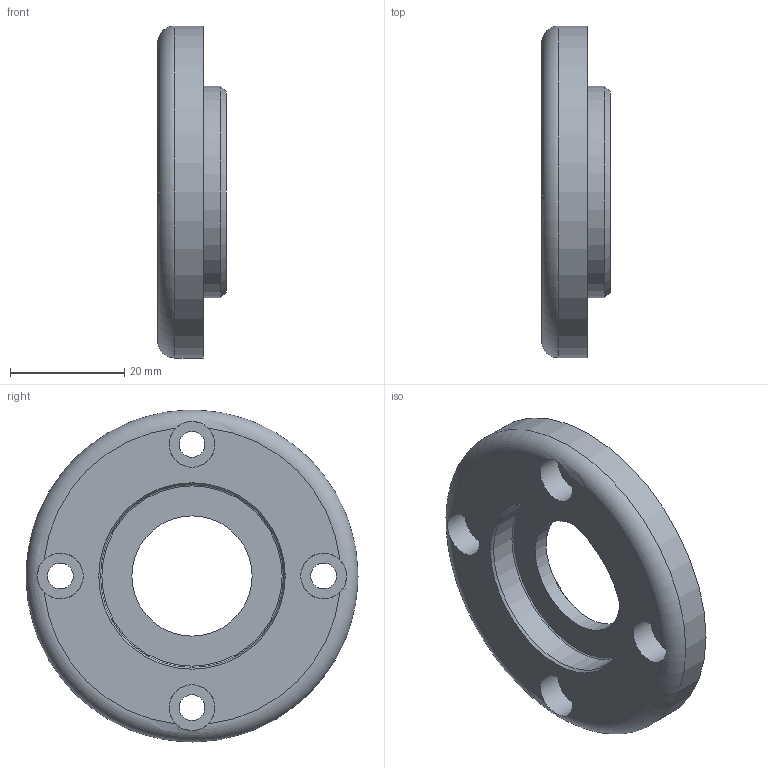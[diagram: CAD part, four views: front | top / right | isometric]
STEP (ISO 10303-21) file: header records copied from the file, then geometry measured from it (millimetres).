
FILE_DESCRIPTION(/* description */ (''),/* implementation_level */ '2;1');
FILE_NAME(/* name */ '',/* time_stamp */ '2024-08-09T13:01:59+09:00',/* author */ ('jhkim'),/* organization */ (''),/* preprocessor_version */ 'ST-DEVELOPER v20',/* originating_system */ 'Autodesk Inventor 2025',/* authorisation */ '');
FILE_SCHEMA (('AUTOMOTIVE_DESIGN { 1 0 10303 214 3 1 1 }'));
Length unit declared in the file: millimetre
Products named in the file (1): 앞커버
Bounding box: 12 x 58 x 58 mm (x, y, z)
Volume: 15688.9 mm3; surface area: 7670.1 mm2
Topology: 1 solids, 1 shells, 27 faces, 64 edges, 42 vertices
Faces by surface type: cylinder 13, plane 9, torus 3, cone 2
Full cylindrical faces by diameter (mm): 4.5 x4, 8 x4, 21 x1, 32 x2, 37 x1, 58 x1
Entity records: 906 total; most frequent: CARTESIAN_POINT 190, DIRECTION 153, ORIENTED_EDGE 128, AXIS2_PLACEMENT_3D 69, EDGE_CURVE 64, VERTEX_POINT 42, CIRCLE 41, EDGE_LOOP 40
